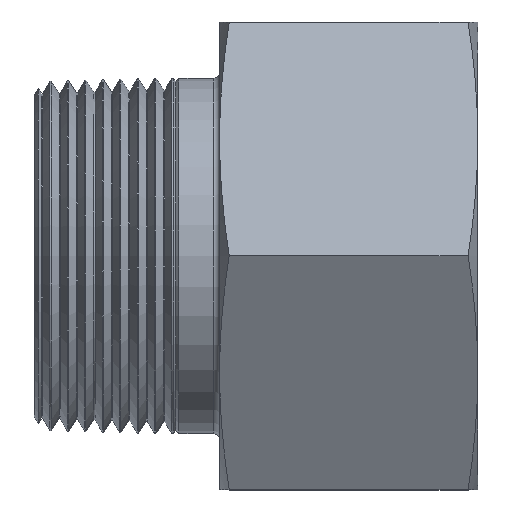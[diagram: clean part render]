
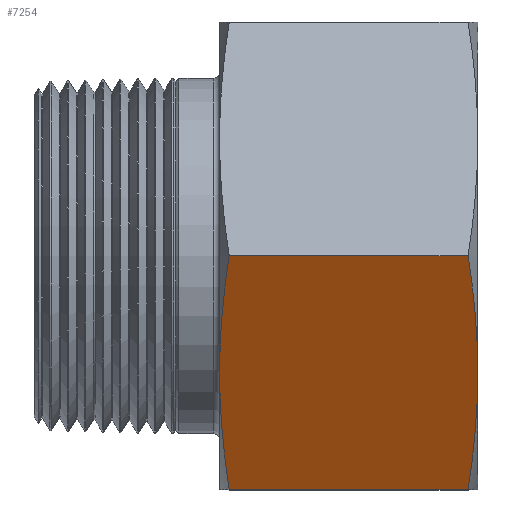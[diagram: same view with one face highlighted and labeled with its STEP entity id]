
A CAD part, top view. The second image highlights one B-rep face of the part: STEP entity #7254.
In plain terms, the highlighted planar face has unit normal (0, -0.5, 0.866).
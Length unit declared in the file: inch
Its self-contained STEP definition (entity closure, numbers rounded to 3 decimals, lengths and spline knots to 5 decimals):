
#45=LINE('',#9362,#401);
#61=LINE('',#10023,#417);
#401=VECTOR('',#8057,39.37008);
#417=VECTOR('',#8081,39.37008);
#941=B_SPLINE_CURVE_WITH_KNOTS('',3,(#10064,#10065,#10066,#10067),
 .UNSPECIFIED.,.F.,.F.,(4,4),(0.,1.),.UNSPECIFIED.);
#942=B_SPLINE_CURVE_WITH_KNOTS('',3,(#10069,#10070,#10071,#10072),
 .UNSPECIFIED.,.F.,.F.,(4,4),(0.,1.),.UNSPECIFIED.);
#943=B_SPLINE_CURVE_WITH_KNOTS('',3,(#10073,#10074,#10075,#10076),
 .UNSPECIFIED.,.F.,.F.,(4,4),(0.,1.),.UNSPECIFIED.);
#944=B_SPLINE_CURVE_WITH_KNOTS('',3,(#10078,#10079,#10080,#10081),
 .UNSPECIFIED.,.F.,.F.,(4,4),(0.,1.),.UNSPECIFIED.);
#945=B_SPLINE_CURVE_WITH_KNOTS('',3,(#10082,#10083,#10084,#10085),
 .UNSPECIFIED.,.F.,.F.,(4,4),(0.,1.),.UNSPECIFIED.);
#946=B_SPLINE_CURVE_WITH_KNOTS('',3,(#10087,#10088,#10089,#10090),
 .UNSPECIFIED.,.F.,.F.,(4,4),(0.,1.),.UNSPECIFIED.);
#947=B_SPLINE_CURVE_WITH_KNOTS('',3,(#10092,#10093,#10094,#10095),
 .UNSPECIFIED.,.F.,.F.,(4,4),(0.,1.),.UNSPECIFIED.);
#948=B_SPLINE_CURVE_WITH_KNOTS('',3,(#10097,#10098,#10099,#10100),
 .UNSPECIFIED.,.F.,.F.,(4,4),(0.,1.),.UNSPECIFIED.);
#1006=PLANE('',#7604);
#1450=ORIENTED_EDGE('',*,*,#2682,.F.);
#1451=ORIENTED_EDGE('',*,*,#2868,.T.);
#1452=ORIENTED_EDGE('',*,*,#2869,.T.);
#1453=ORIENTED_EDGE('',*,*,#2870,.T.);
#1454=ORIENTED_EDGE('',*,*,#2871,.T.);
#1455=ORIENTED_EDGE('',*,*,#2859,.T.);
#1456=ORIENTED_EDGE('',*,*,#2872,.F.);
#1457=ORIENTED_EDGE('',*,*,#2873,.F.);
#1458=ORIENTED_EDGE('',*,*,#2874,.F.);
#1459=ORIENTED_EDGE('',*,*,#2875,.F.);
#2682=EDGE_CURVE('',#3392,#3393,#45,.T.);
#2859=EDGE_CURVE('',#3563,#3564,#61,.T.);
#2868=EDGE_CURVE('',#3392,#3570,#941,.T.);
#2869=EDGE_CURVE('',#3570,#3380,#942,.T.);
#2870=EDGE_CURVE('',#3380,#3571,#943,.T.);
#2871=EDGE_CURVE('',#3571,#3563,#944,.T.);
#2872=EDGE_CURVE('',#3572,#3564,#945,.F.);
#2873=EDGE_CURVE('',#3573,#3572,#946,.F.);
#2874=EDGE_CURVE('',#3574,#3573,#947,.F.);
#2875=EDGE_CURVE('',#3393,#3574,#948,.F.);
#3380=VERTEX_POINT('',#9308);
#3392=VERTEX_POINT('',#9361);
#3393=VERTEX_POINT('',#9363);
#3563=VERTEX_POINT('',#10024);
#3564=VERTEX_POINT('',#10025);
#3570=VERTEX_POINT('',#10068);
#3571=VERTEX_POINT('',#10077);
#3572=VERTEX_POINT('',#10086);
#3573=VERTEX_POINT('',#10091);
#3574=VERTEX_POINT('',#10096);
#3996=EDGE_LOOP('',(#1450,#1451,#1452,#1453,#1454,#1455,#1456,#1457,#1458,
#1459));
#4436=FACE_BOUND('',#3996,.T.);
#7254=ADVANCED_FACE('',(#4436),#1006,.F.);
#7604=AXIS2_PLACEMENT_3D('',#10063,#8082,#8083);
#8057=DIRECTION('',(-1.,0.,0.));
#8081=DIRECTION('',(-1.,0.,0.));
#8082=DIRECTION('',(0.,0.5,-0.866));
#8083=DIRECTION('',(0.,0.866,0.5));
#9308=CARTESIAN_POINT('',(2.372,-0.625,1.08253));
#9361=CARTESIAN_POINT('',(2.32019,-1.25,0.72169));
#9362=CARTESIAN_POINT('',(4.21,-1.25,0.72169));
#9363=CARTESIAN_POINT('',(1.04281,-1.25,0.72169));
#10023=CARTESIAN_POINT('',(4.21,0.,1.44338));
#10024=CARTESIAN_POINT('',(2.32019,0.,1.44338));
#10025=CARTESIAN_POINT('',(1.04281,0.,1.44338));
#10063=CARTESIAN_POINT('',(4.21,0.,1.44338));
#10064=CARTESIAN_POINT('',(2.32019,-1.25,0.72169));
#10065=CARTESIAN_POINT('',(2.35201,-1.04426,0.84047));
#10066=CARTESIAN_POINT('',(2.36917,-0.8522,0.95136));
#10067=CARTESIAN_POINT('',(2.37166,-0.67384,1.05433));
#10068=CARTESIAN_POINT('',(2.37166,-0.67384,1.05433));
#10069=CARTESIAN_POINT('',(2.37166,-0.67384,1.05433));
#10070=CARTESIAN_POINT('',(2.37189,-0.65755,1.06374));
#10071=CARTESIAN_POINT('',(2.372,-0.64127,1.07314));
#10072=CARTESIAN_POINT('',(2.372,-0.625,1.08253));
#10073=CARTESIAN_POINT('',(2.372,-0.625,1.08253));
#10074=CARTESIAN_POINT('',(2.372,-0.60873,1.09193));
#10075=CARTESIAN_POINT('',(2.37189,-0.59245,1.10133));
#10076=CARTESIAN_POINT('',(2.37166,-0.57616,1.11073));
#10077=CARTESIAN_POINT('',(2.37166,-0.57616,1.11073));
#10078=CARTESIAN_POINT('',(2.37166,-0.57616,1.11073));
#10079=CARTESIAN_POINT('',(2.36917,-0.3978,1.21371));
#10080=CARTESIAN_POINT('',(2.35201,-0.20574,1.32459));
#10081=CARTESIAN_POINT('',(2.32019,0.,1.44338));
#10082=CARTESIAN_POINT('',(1.04281,0.,1.44338));
#10083=CARTESIAN_POINT('',(1.01099,-0.20574,1.32459));
#10084=CARTESIAN_POINT('',(0.99383,-0.3978,1.21371));
#10085=CARTESIAN_POINT('',(0.99134,-0.57616,1.11073));
#10086=CARTESIAN_POINT('',(0.99134,-0.57616,1.11073));
#10087=CARTESIAN_POINT('',(0.99134,-0.57616,1.11073));
#10088=CARTESIAN_POINT('',(0.99111,-0.59245,1.10133));
#10089=CARTESIAN_POINT('',(0.991,-0.60873,1.09193));
#10090=CARTESIAN_POINT('',(0.991,-0.625,1.08253));
#10091=CARTESIAN_POINT('',(0.991,-0.625,1.08253));
#10092=CARTESIAN_POINT('',(0.991,-0.625,1.08253));
#10093=CARTESIAN_POINT('',(0.991,-0.64127,1.07314));
#10094=CARTESIAN_POINT('',(0.99111,-0.65755,1.06374));
#10095=CARTESIAN_POINT('',(0.99134,-0.67384,1.05433));
#10096=CARTESIAN_POINT('',(0.99134,-0.67384,1.05433));
#10097=CARTESIAN_POINT('',(0.99134,-0.67384,1.05433));
#10098=CARTESIAN_POINT('',(0.99383,-0.8522,0.95136));
#10099=CARTESIAN_POINT('',(1.01099,-1.04426,0.84047));
#10100=CARTESIAN_POINT('',(1.04281,-1.25,0.72169));
